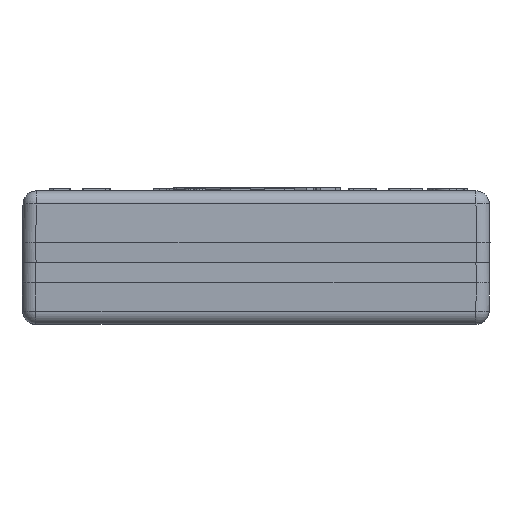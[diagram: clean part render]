
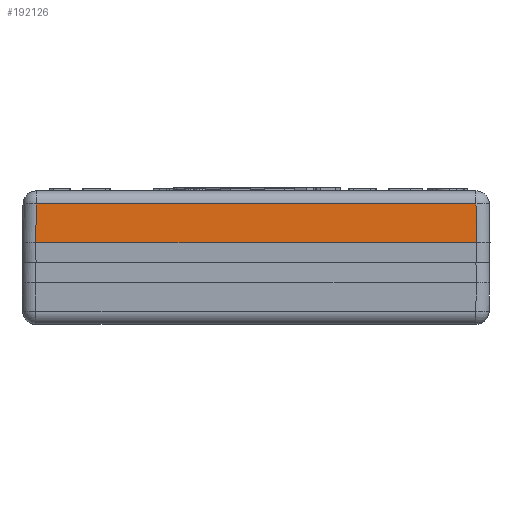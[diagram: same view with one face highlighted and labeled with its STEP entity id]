
A CAD part, left-side view. The second image highlights one B-rep face of the part: STEP entity #192126.
In plain terms, the highlighted planar face has unit normal (-1, 0, 0.018).
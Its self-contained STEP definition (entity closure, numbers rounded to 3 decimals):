
#1150 = CARTESIAN_POINT ( 'NONE',  ( -2.5, -65.55, 6.01 ) ) ;
#2024 = VERTEX_POINT ( 'NONE', #17591 ) ;
#7178 = EDGE_CURVE ( 'NONE', #68506, #2024, #109684, .T. ) ;
#8002 = VERTEX_POINT ( 'NONE', #108454 ) ;
#12814 = EDGE_LOOP ( 'NONE', ( #84943, #56193, #210400, #44607 ) ) ;
#17591 = CARTESIAN_POINT ( 'NONE',  ( -2.399, 0.349, 11.795 ) ) ;
#21984 = DIRECTION ( 'NONE',  ( 0., 1., 0. ) ) ;
#26307 = VECTOR ( 'NONE', #67977, 1000. ) ;
#26910 = EDGE_CURVE ( 'NONE', #8002, #68506, #213941, .T. ) ;
#28841 = CARTESIAN_POINT ( 'NONE',  ( -2.399, 2.315, 11.795 ) ) ;
#30627 = VERTEX_POINT ( 'NONE', #111880 ) ;
#43370 = VECTOR ( 'NONE', #72192, 1000. ) ;
#44607 = ORIENTED_EDGE ( 'NONE', *, *, #76439, .F. ) ;
#53279 = CARTESIAN_POINT ( 'NONE',  ( -2.399, -65.449, 11.795 ) ) ;
#56193 = ORIENTED_EDGE ( 'NONE', *, *, #7178, .T. ) ;
#67977 = DIRECTION ( 'NONE',  ( 0., 1., 0. ) ) ;
#68506 = VERTEX_POINT ( 'NONE', #53279 ) ;
#71001 = AXIS2_PLACEMENT_3D ( 'NONE', #1150, #200664, #21984 ) ;
#72192 = DIRECTION ( 'NONE',  ( 0., 1., 0. ) ) ;
#75563 = CARTESIAN_POINT ( 'NONE',  ( -2.5, -65.55, 6.01 ) ) ;
#76036 = CARTESIAN_POINT ( 'NONE',  ( -2.5, -65.55, 6.01 ) ) ;
#76439 = EDGE_CURVE ( 'NONE', #8002, #30627, #250953, .T. ) ;
#77815 = DIRECTION ( 'NONE',  ( -0.017, 0.017, -1. ) ) ;
#84943 = ORIENTED_EDGE ( 'NONE', *, *, #26910, .T. ) ;
#108454 = CARTESIAN_POINT ( 'NONE',  ( -2.5, -65.55, 6.01 ) ) ;
#109684 = LINE ( 'NONE', #28841, #26307 ) ;
#111880 = CARTESIAN_POINT ( 'NONE',  ( -2.5, 0.45, 6.01 ) ) ;
#137739 = CARTESIAN_POINT ( 'NONE',  ( -2.48, 0.43, 7.161 ) ) ;
#142467 = EDGE_CURVE ( 'NONE', #2024, #30627, #158580, .T. ) ;
#158580 = LINE ( 'NONE', #137739, #253287 ) ;
#182351 = FACE_OUTER_BOUND ( 'NONE', #12814, .T. ) ;
#192126 = ADVANCED_FACE ( 'NONE', ( #182351 ), #219005, .T. ) ;
#200664 = DIRECTION ( 'NONE',  ( -1., 0., 0.017 ) ) ;
#210400 = ORIENTED_EDGE ( 'NONE', *, *, #142467, .T. ) ;
#213941 = LINE ( 'NONE', #75563, #256669 ) ;
#219005 = PLANE ( 'NONE',  #71001 ) ;
#238626 = DIRECTION ( 'NONE',  ( 0.017, 0.017, 1. ) ) ;
#250953 = LINE ( 'NONE', #76036, #43370 ) ;
#253287 = VECTOR ( 'NONE', #77815, 1000. ) ;
#256669 = VECTOR ( 'NONE', #238626, 1000. ) ;
